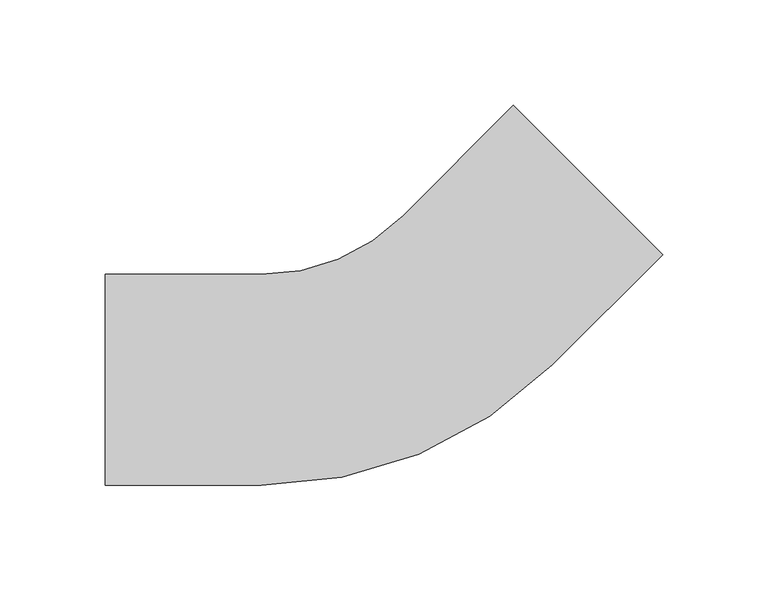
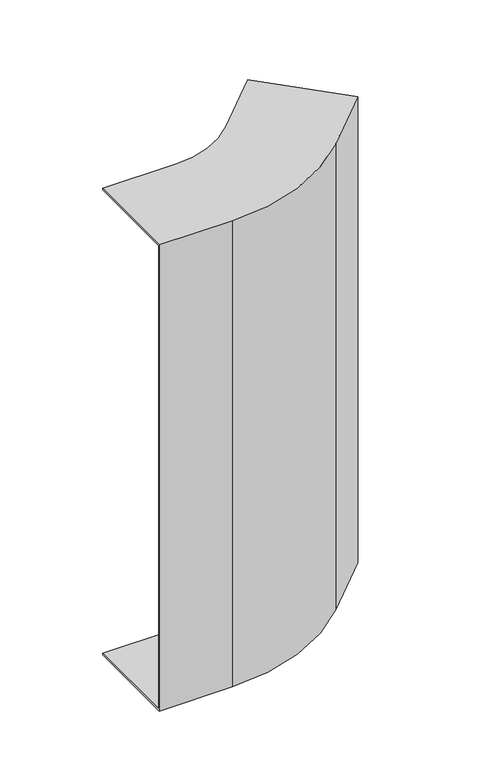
"""IFC4 building model written with IfcOpenShell, lengths in millimetres: cable carrier fitting geometry, BAKS_KK_Vertical bend EXTERNAL_LU : LUMNP_H100."""

from ifc_helpers import new_model, si_unit, frame, origin, place, context, project, spatial, polyline, circle_curve, source, transform, mapped, element, save
from ifc_brep_helpers import plane_surface, cylinder_surface, revolved_surface, advanced_brep


def cable_carrier_fitting_3ce5f4b2(model_context):
    return source(origin(), model_context, "Body", "AdvancedBrep", [
        advanced_brep(
        [(-134.0609665, 50.0, 250.0), (-134.0609665, 50.0, 248.5), (-134.0609665, -48.5, 248.5), (-134.0609665, -48.5, -248.5), (-134.0609665, 50.0, -248.5), (-134.0609665, 50.0, -250.0), (-134.0609665, -50.0, -250.0), (-134.0609665, -50.0, 250.0), (59.4400795, 130.1507576, 250.0), (130.1507576, 59.4400795, 250.0), (130.1507576, 59.4400795, -250.0), (59.4400795, 130.1507576, -250.0), (59.4400795, 130.1507576, -248.5), (129.0900974, 60.5007396, -248.5), (129.0900974, 60.5007396, 248.5), (59.4400795, 130.1507576, 248.5), (-60.0609665, -50.0, 250.0), (77.8248558, 7.1141777, 250.0), (7.1141777, 77.8248558, 250.0), (-60.0609665, 50.0, 250.0), (-60.0609665, -50.0, -250.0), (-60.0609665, 50.0, -250.0), (7.1141777, 77.8248558, -250.0), (77.8248558, 7.1141777, -250.0), (-60.0609665, 50.0, -248.5), (-60.0609665, -48.5, -248.5), (76.7641956, 8.1748378, -248.5), (7.1141777, 77.8248558, -248.5), (-60.0609665, -48.5, 248.5), (-60.0609665, 50.0, 248.5), (7.1141777, 77.8248558, 248.5), (76.7641956, 8.1748378, 248.5)],
        [
            (0, 1),
            (1, 2),
            (2, 3),
            (3, 4),
            (4, 5),
            (5, 6),
            (6, 7),
            (7, 0),
            (8, 9),
            (9, 10),
            (10, 11),
            (11, 12),
            (12, 13),
            (13, 14),
            (14, 15),
            (15, 8),
            (7, 16),
            (16, 17, circle_curve(frame((-60.0609665, 145.0, 250.0), z_axis=(0.0, 0.0, 1.0), x_axis=(0.0, -1.0, 0.0)), 195.0)),
            (17, 9),
            (8, 18),
            (18, 19, circle_curve(frame((-60.0609665, 145.0, 250.0), z_axis=(0.0, 0.0, -1.0), x_axis=(0.0, -1.0, 0.0)), 95.0)),
            (19, 0),
            (6, 20),
            (20, 16),
            (5, 21),
            (21, 22, circle_curve(frame((-60.0609665, 145.0, -250.0), z_axis=(0.0, 0.0, 1.0), x_axis=(0.0, -1.0, 0.0)), 95.0)),
            (22, 11),
            (10, 23),
            (23, 20, circle_curve(frame((-60.0609665, 145.0, -250.0), z_axis=(0.0, 0.0, -1.0), x_axis=(0.0, -1.0, 0.0)), 195.0)),
            (4, 24),
            (24, 21),
            (3, 25),
            (25, 26, circle_curve(frame((-60.0609665, 145.0, -248.5), z_axis=(0.0, 0.0, 1.0), x_axis=(0.0, -1.0, 0.0)), 193.5)),
            (26, 13),
            (12, 27),
            (27, 24, circle_curve(frame((-60.0609665, 145.0, -248.5), z_axis=(0.0, 0.0, -1.0), x_axis=(0.0, -1.0, 0.0)), 95.0)),
            (2, 28),
            (28, 25),
            (1, 29),
            (29, 30, circle_curve(frame((-60.0609665, 145.0, 248.5), z_axis=(0.0, 0.0, 1.0), x_axis=(0.0, -1.0, 0.0)), 95.0)),
            (30, 15),
            (14, 31),
            (31, 28, circle_curve(frame((-60.0609665, 145.0, 248.5), z_axis=(0.0, 0.0, -1.0), x_axis=(0.0, -1.0, 0.0)), 193.5)),
            (19, 29),
            (23, 17),
            (27, 22),
            (31, 26),
            (18, 30),
        ],
        [
            plane_surface(frame((-134.0609665, 0.0, 0.0), z_axis=(-1.0, 0.0, 0.0), x_axis=(0.0, 0.0, 1.0))),
            plane_surface(frame((94.7954185, 94.7954185, 0.0), z_axis=(0.7071067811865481, 0.7071067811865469, 0.0), x_axis=(0.0, 0.0, 1.0))),
            plane_surface(frame((-134.0609665, -50.0, 250.0), z_axis=(0.0, 0.0, 1.0), x_axis=(1.0, 0.0, 0.0))),
            plane_surface(frame((-134.0609665, -50.0, -250.0), z_axis=(0.0, -1.0, 0.0), x_axis=(1.0, 0.0, 0.0))),
            plane_surface(frame((-134.0609665, 50.0, -250.0), z_axis=(0.0, 0.0, -1.0), x_axis=(1.0, 0.0, 0.0))),
            plane_surface(frame((-134.0609665, 50.0, -248.5), z_axis=(0.0, 1.0, 0.0), x_axis=(1.0, 0.0, 0.0))),
            plane_surface(frame((-134.0609665, -48.5, -248.5), z_axis=(0.0, 0.0, 1.0), x_axis=(1.0, 0.0, 0.0))),
            plane_surface(frame((-134.0609665, -48.5, 248.5), z_axis=(0.0, 1.0, 0.0), x_axis=(1.0, 0.0, 0.0))),
            plane_surface(frame((-134.0609665, 50.0, 248.5), z_axis=(0.0, 0.0, -1.0), x_axis=(1.0, 0.0, 0.0))),
            plane_surface(frame((-134.0609665, 50.0, 250.0), z_axis=(0.0, 1.0, 0.0), x_axis=(1.0, 0.0, 0.0))),
            cylinder_surface(frame((-60.0609665, 145.0, 0.0), z_axis=(0.0, 0.0, 1.0), x_axis=(0.0, -1.0, 0.0)), 195.0),
            revolved_surface(polyline([(-60.0609665, 50.0, -248.5), (-60.0609665, 50.0, -250.0)]), (-60.0609665, 145.0, 0.0), (0.0, 0.0, 1.0)),
            revolved_surface(polyline([(-60.0609665, -48.5, 248.5), (-60.0609665, -48.5, -248.5)]), (-60.0609665, 145.0, 0.0), (0.0, 0.0, 1.0)),
            revolved_surface(polyline([(-60.0609665, 50.0, 250.0), (-60.0609665, 50.0, 248.5)]), (-60.0609665, 145.0, 0.0), (0.0, 0.0, 1.0)),
            plane_surface(frame((77.8248558, 7.1141777, -250.0), z_axis=(0.7071067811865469, -0.7071067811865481, 0.0), x_axis=(0.7071067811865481, 0.7071067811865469, 0.0))),
            plane_surface(frame((7.1141777, 77.8248558, -248.5), z_axis=(-0.7071067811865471, 0.707106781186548, 0.0), x_axis=(0.707106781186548, 0.7071067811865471, 0.0))),
            plane_surface(frame((76.7641956, 8.1748378, 248.5), z_axis=(-0.7071067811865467, 0.7071067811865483, 0.0), x_axis=(0.7071067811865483, 0.7071067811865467, 0.0))),
            plane_surface(frame((7.1141777, 77.8248558, 250.0), z_axis=(-0.7071067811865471, 0.707106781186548, 0.0), x_axis=(0.707106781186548, 0.7071067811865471, 0.0))),
        ],
        [
            (0, [[1, 2, 3, 4, 5, 6, 7, 8]]),
            (1, [[9, 10, 11, 12, 13, 14, 15, 16]]),
            (2, [[-8, 17, 18, 19, -9, 20, 21, 22]]),
            (3, [[-7, 23, 24, -17]]),
            (4, [[-6, 25, 26, 27, -11, 28, 29, -23]]),
            (5, [[-5, 30, 31, -25]]),
            (6, [[-4, 32, 33, 34, -13, 35, 36, -30]]),
            (7, [[-3, 37, 38, -32]]),
            (8, [[-2, 39, 40, 41, -15, 42, 43, -37]]),
            (9, [[-1, -22, 44, -39]]),
            (10, [[-18, -24, -29, 45]]),
            (11, [[-26, -31, -36, 46]]),
            (12, [[-33, -38, -43, 47]]),
            (13, [[-40, -44, -21, 48]]),
            (14, [[-45, -28, -10, -19]]),
            (15, [[-46, -35, -12, -27]]),
            (16, [[-47, -42, -14, -34]]),
            (17, [[-48, -20, -16, -41]]),
        ],
    ),
    ])


if __name__ == "__main__":
    model = new_model("IFC4")
    model_context = context("Model", 3, world=origin())
    ifc_project = project(units=[si_unit("LENGTHUNIT", "METRE", prefix="MILLI")], contexts=[model_context])
    site = spatial("IfcSite", under=ifc_project)
    building = spatial("IfcBuilding", under=site)
    placement = place(None, origin())
    cable_carrier_fitting_shape = cable_carrier_fitting_3ce5f4b2(model_context)
    element("IfcCableCarrierFitting", 1, ObjectType="BAKS_KK_Vertical bend EXTERNAL_LU : LUMNP_H100", at=placement, inside=building, context=model_context, shape_type="MappedRepresentation", body=[
        mapped(cable_carrier_fitting_shape, transform((0.0, 0.0, 0.0), x_axis=(1.0, 0.0, 0.0), y_axis=(0.0, 1.0, 0.0), z_axis=(0.0, 0.0, 1.0))),
    ])
    save(model, "model.ifc")
